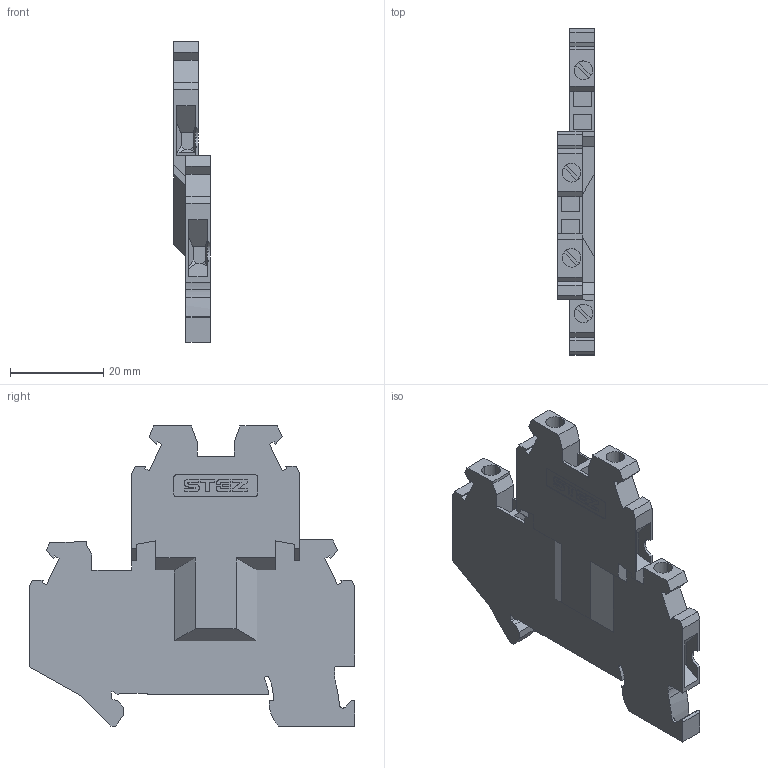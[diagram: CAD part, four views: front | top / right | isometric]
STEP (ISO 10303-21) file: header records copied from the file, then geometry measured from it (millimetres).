
FILE_DESCRIPTION(('TFLEX Exchange Step'),'2;1');
FILE_NAME('11100000_KHB_2,5-2Y.stp', '2023-10-03T12:50:20+03:00',('apanin'),('Unknown organisation'),'TFLEX Exchange 2023.0','T-FLEX CAD','Unknown authorisation');
FILE_SCHEMA( ('AUTOMOTIVE_DESIGN { 1 0 10303 214 1 1 1 1 }') );
Length unit declared in the file: millimetre
Products named in the file (1): Тело_1 - 1:1
Bounding box: 7.72 x 69.9 x 64.35 mm (x, y, z)
Volume: 12845.7 mm3; surface area: 9776.9 mm2
Topology: 1 solids, 1 shells, 476 faces, 1406 edges, 944 vertices
Faces by surface type: plane 283, cylinder 193
Entity records: 15833 total; most frequent: CARTESIAN_POINT 3060, ORIENTED_EDGE 2812, DIRECTION 2542, EDGE_CURVE 1406, VERTEX_POINT 944, AXIS2_PLACEMENT_3D 887, VECTOR 768, LINE 768
